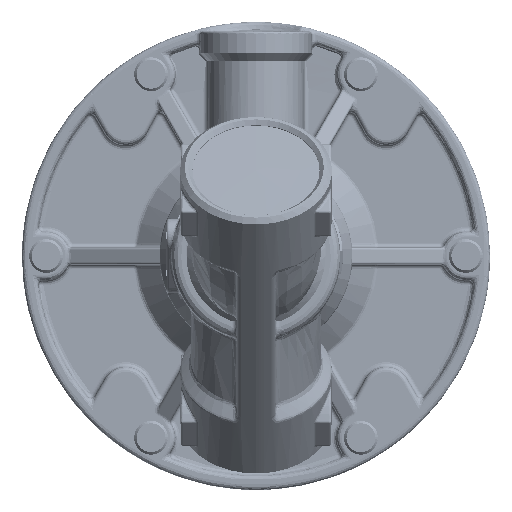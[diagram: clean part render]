
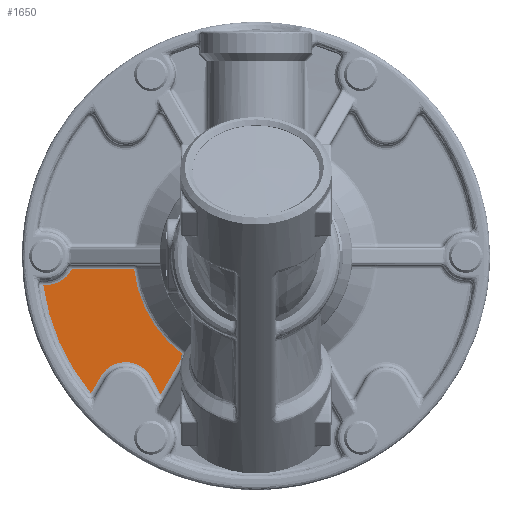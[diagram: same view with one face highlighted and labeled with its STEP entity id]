
A CAD part, front view. The second image highlights one B-rep face of the part: STEP entity #1650.
In plain terms, the highlighted planar face has unit normal (0, -1, 0).
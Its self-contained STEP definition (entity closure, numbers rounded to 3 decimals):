
#1650=ADVANCED_FACE('',(#15225),#15224,.F.);
#15224=PLANE('',#47954);
#15225=FACE_OUTER_BOUND('',#47955,.T.);
#47951=CARTESIAN_POINT('',(-31.342,24.5,12.106));
#47952=DIRECTION('',(0.,1.,0.));
#47953=DIRECTION('',(0.,0.,1.));
#47954=AXIS2_PLACEMENT_3D('',#47951,#47952,#47953);
#47955=EDGE_LOOP('',(#54744,#54745,#54746,#54747,#54748,#54749,#54750,#54751,#54752));
#54744=ORIENTED_EDGE('',*,*,#58337,.T.);
#54745=ORIENTED_EDGE('',*,*,#57558,.T.);
#54746=ORIENTED_EDGE('',*,*,#58296,.T.);
#54747=ORIENTED_EDGE('',*,*,#57566,.T.);
#54748=ORIENTED_EDGE('',*,*,#57569,.T.);
#54749=ORIENTED_EDGE('',*,*,#58338,.T.);
#54750=ORIENTED_EDGE('',*,*,#57571,.T.);
#54751=ORIENTED_EDGE('',*,*,#58189,.T.);
#54752=ORIENTED_EDGE('',*,*,#57564,.T.);
#57558=EDGE_CURVE('',#74698,#74677,#74712,.T.);
#57564=EDGE_CURVE('',#73040,#74746,#74753,.T.);
#57566=EDGE_CURVE('',#74726,#74760,#74767,.T.);
#57569=EDGE_CURVE('',#74760,#74780,#74787,.T.);
#57571=EDGE_CURVE('',#74799,#73061,#74800,.T.);
#58189=EDGE_CURVE('',#73061,#73040,#78834,.T.);
#58296=EDGE_CURVE('',#74677,#74726,#79515,.T.);
#58337=EDGE_CURVE('',#74746,#74698,#79782,.T.);
#58338=EDGE_CURVE('',#74780,#74799,#79788,.T.);
#73040=VERTEX_POINT('',#95904);
#73061=VERTEX_POINT('',#95919);
#74677=VERTEX_POINT('',#97095);
#74698=VERTEX_POINT('',#97110);
#74712=LINE('',#97119,#97120);
#74726=VERTEX_POINT('',#97128);
#74746=VERTEX_POINT('',#97141);
#74753=LINE('',#97146,#97147);
#74760=VERTEX_POINT('',#97150);
#74767=LINE('',#97155,#97156);
#74780=VERTEX_POINT('',#97162);
#74787=CIRCLE('',#97170,6.);
#74799=VERTEX_POINT('',#97175);
#74800=LINE('',#97176,#97177);
#78834=CIRCLE('',#100625,25.414);
#79515=CIRCLE('',#101534,44.5);
#79782=CIRCLE('',#101737,6.);
#79788=LINE('',#101738,#101739);
#95904=CARTESIAN_POINT('',(-2.75,24.5,25.265));
#95919=CARTESIAN_POINT('',(-20.505,24.5,15.014));
#97095=CARTESIAN_POINT('',(-6.,24.5,44.094));
#97110=CARTESIAN_POINT('',(-6.,24.5,43.5));
#97119=CARTESIAN_POINT('',(-6.,24.5,43.5));
#97120=VECTOR('',#97121,0.594);
#97121=DIRECTION('',(0.,0.,1.));
#97128=CARTESIAN_POINT('',(-28.471,24.5,34.2));
#97141=CARTESIAN_POINT('',(-2.75,24.5,38.167));
#97146=CARTESIAN_POINT('',(-2.75,24.5,25.265));
#97147=VECTOR('',#97148,12.902);
#97148=DIRECTION('',(0.,0.,1.));
#97150=CARTESIAN_POINT('',(-25.,24.5,32.196));
#97155=CARTESIAN_POINT('',(-28.471,24.5,34.2));
#97156=VECTOR('',#97157,4.008);
#97157=DIRECTION('',(0.866,0.,-0.5));
#97162=CARTESIAN_POINT('',(-25.138,24.5,21.727));
#97167=CARTESIAN_POINT('',(-28.,24.5,27.));
#97168=DIRECTION('',(0.,1.,0.));
#97169=DIRECTION('',(0.,0.,-1.));
#97170=AXIS2_PLACEMENT_3D('',#97167,#97168,#97169);
#97175=CARTESIAN_POINT('',(-28.743,24.5,19.77));
#97176=CARTESIAN_POINT('',(-28.743,24.5,19.77));
#97177=VECTOR('',#97178,9.512);
#97178=DIRECTION('',(0.866,0.,-0.5));
#100622=CARTESIAN_POINT('',(0.,24.5,0.));
#100623=DIRECTION('',(0.,1.,0.));
#100624=DIRECTION('',(0.,0.,-1.));
#100625=AXIS2_PLACEMENT_3D('',#100622,#100623,#100624);
#101531=CARTESIAN_POINT('',(0.,24.5,0.));
#101532=DIRECTION('',(0.,-1.,0.));
#101533=DIRECTION('',(0.,0.,-1.));
#101534=AXIS2_PLACEMENT_3D('',#101531,#101532,#101533);
#101734=CARTESIAN_POINT('',(0.,24.5,43.5));
#101735=DIRECTION('',(0.,1.,0.));
#101736=DIRECTION('',(0.,0.,-1.));
#101737=AXIS2_PLACEMENT_3D('',#101734,#101735,#101736);
#101738=CARTESIAN_POINT('',(-25.138,24.5,21.727));
#101739=VECTOR('',#101740,4.102);
#101740=DIRECTION('',(-0.879,0.,-0.477));
